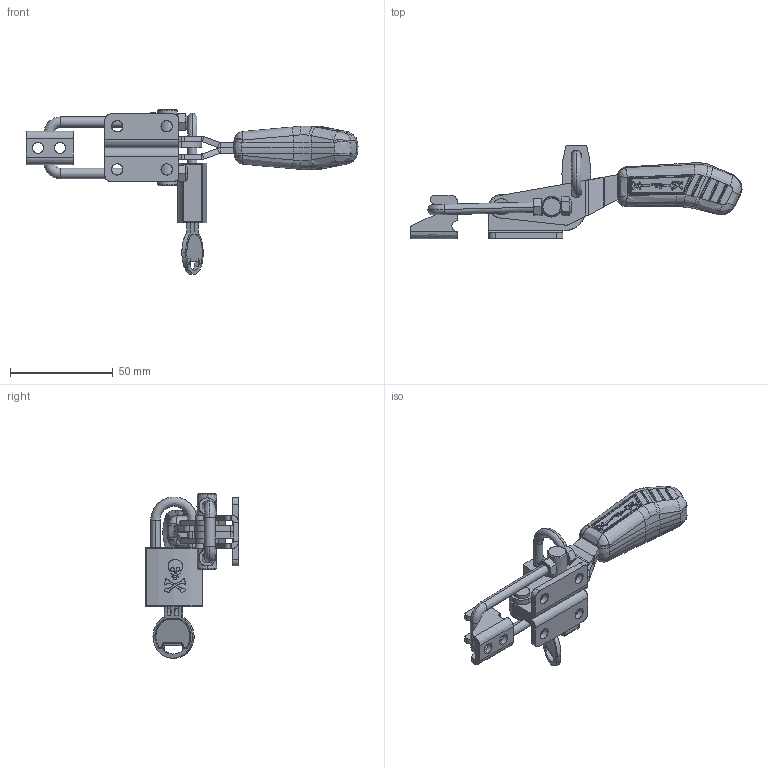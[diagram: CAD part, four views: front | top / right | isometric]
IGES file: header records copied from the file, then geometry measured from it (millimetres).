
Start section: SolidWorks IGES file using analytic representation for surfaces
Global section: file name: C:\Projetos\Grampos\KF-743\KF-743 DC\KF-743 DC.IGS; native system: SolidWorks 2013; preprocessor: SolidWorks 2013; author: Ricardo; date: 140820.172810; units: millimetre
Bounding box: 161.44 x 45.5 x 79.95 mm (x, y, z)
Surface area: 38513.3 mm2 (no closed solid volume)
Topology: 0 solids, 0 shells, 1257 faces, 13615 edges, 13558 vertices
Faces by surface type: bspline 778, revolution 479
